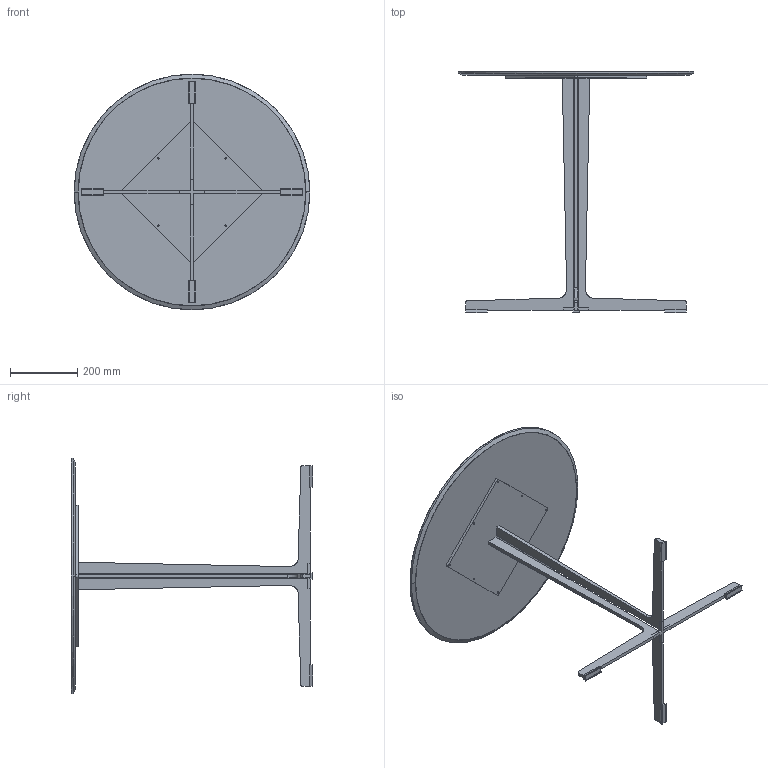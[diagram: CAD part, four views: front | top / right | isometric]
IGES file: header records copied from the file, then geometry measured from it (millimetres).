
Start section: SolidWorks IGES file using analytic representation for surfaces
Global section: file name: W:\design\CKR\spilt\IGS\DIAM70.IGS; native system: SolidWorks 2010; preprocessor: SolidWorks 2010; author: PC20; date: 150212.183644; units: millimetre
Bounding box: 700 x 717 x 700 mm (x, y, z)
Surface area: 1301032.3 mm2 (no closed solid volume)
Topology: 0 solids, 0 shells, 249 faces, 4896 edges, 6186 vertices
Faces by surface type: bspline 162, revolution 87
